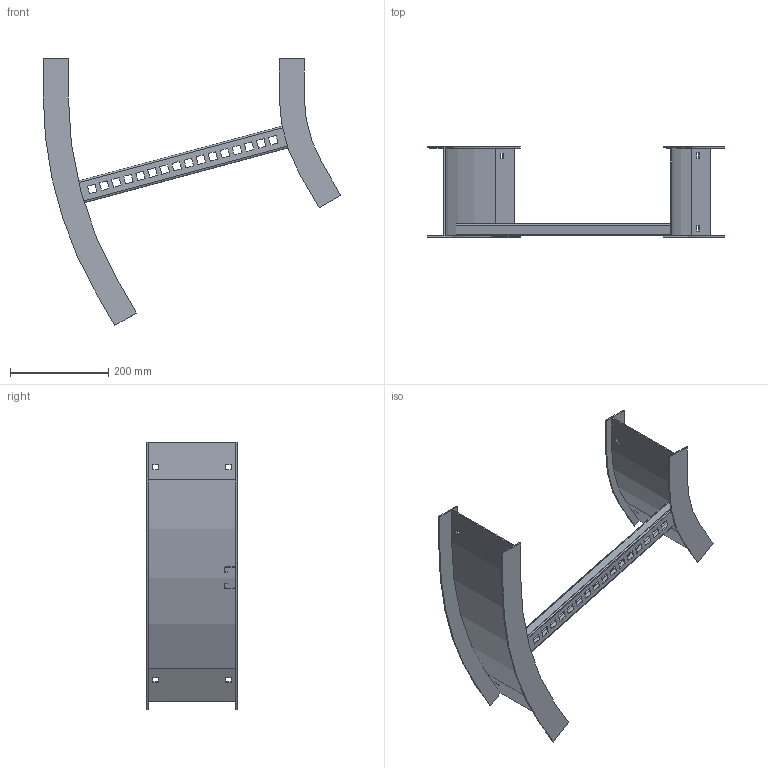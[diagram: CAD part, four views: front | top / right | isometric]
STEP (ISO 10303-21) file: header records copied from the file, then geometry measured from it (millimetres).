
FILE_DESCRIPTION((''),'2;1');
FILE_NAME('AHF718LHB3012_ASM','2010-01-27T',('erouzier'),(''),'PRO/ENGINEER BY PARAMETRIC TECHNOLOGY CORPORATION, 2008510','PRO/ENGINEER BY PARAMETRIC TECHNOLOGY CORPORATION, 2008510','');
FILE_SCHEMA(('CONFIG_CONTROL_DESIGN'));
Length unit declared in the file: inch
Products named in the file (4): CDS001813-7-30-12-I; CDS001813-7-30-30-O; CDS002159L18-P; AHF718LHB3012_ASM
Assembly tree (3 placements, depth 2):
  AHF718LHB3012_ASM
    CDS001813-7-30-12-I
    CDS001813-7-30-30-O
    CDS002159L18-P
Bounding box: 604.29 x 183.9 x 542.5 mm (x, y, z)
Volume: 694304 mm3; surface area: 593021.9 mm2
Topology: 3 solids, 3 shells, 242 faces, 708 edges, 472 vertices
Faces by surface type: plane 155, cylinder 87
Entity records: 8238 total; most frequent: CARTESIAN_POINT 1429, ORIENTED_EDGE 1416, DIRECTION 1380, EDGE_CURVE 708, VECTOR 534, LINE 534, VERTEX_POINT 472, AXIS2_PLACEMENT_3D 423
